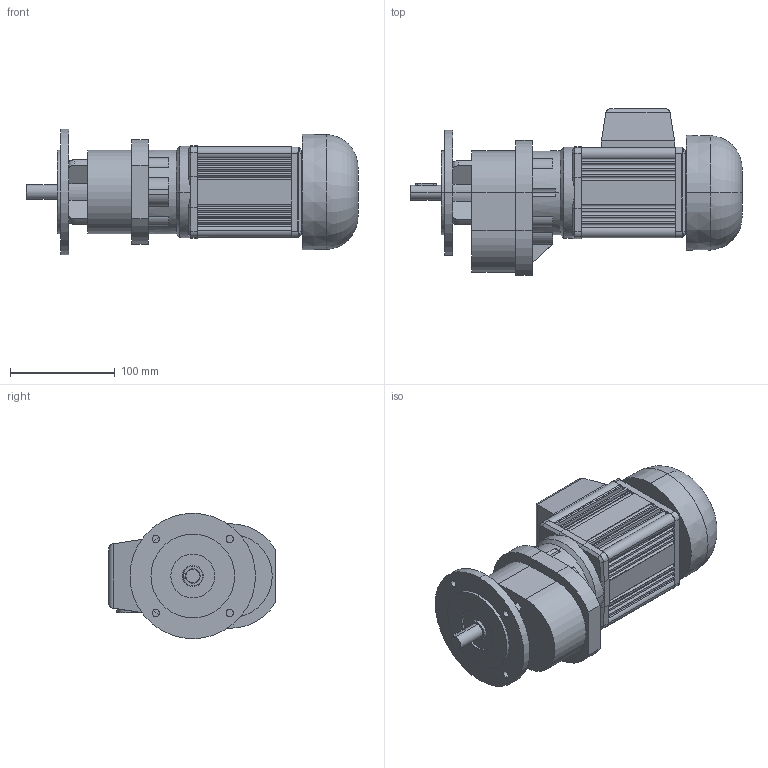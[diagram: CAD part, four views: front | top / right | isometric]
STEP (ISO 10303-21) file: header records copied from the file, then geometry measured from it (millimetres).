
FILE_DESCRIPTION(('OneSpaceDesigner STEP Export'),'2;1');
FILE_NAME('OEG51_SF30_Q.stp','2008-06-19T14:16:09',(''),(''),'OneSpace Designer STEP processor (Jan. 2003) for AP214(CD)(Solid Model)','OneSpace Designer 12.01D 09-Jul-2004 (C) CoCreate Software GmbH','');
FILE_SCHEMA(('AUTOMOTIVE_DESIGN_CC2 {1 2 10303 214 -1 1 5 1}'));
Length unit declared in the file: millimetre
Products named in the file (2): OEG51_SF30_Q
Assembly tree (1 placements, depth 2):
  OEG51_SF30_Q
    OEG51_SF30_Q
Bounding box: 317.5 x 159.48 x 120 mm (x, y, z)
Volume: 2231229.4 mm3; surface area: 179024 mm2
Topology: 1 solids, 1 shells, 382 faces, 1022 edges, 640 vertices
Faces by surface type: plane 212, cylinder 126, bspline 24, cone 14, torus 6
Entity records: 15236 total; most frequent: CARTESIAN_POINT 6514, ORIENTED_EDGE 2044, DIRECTION 1559, EDGE_CURVE 1022, VERTEX_POINT 640, VECTOR 605, LINE 605, AXIS2_PLACEMENT_3D 477
